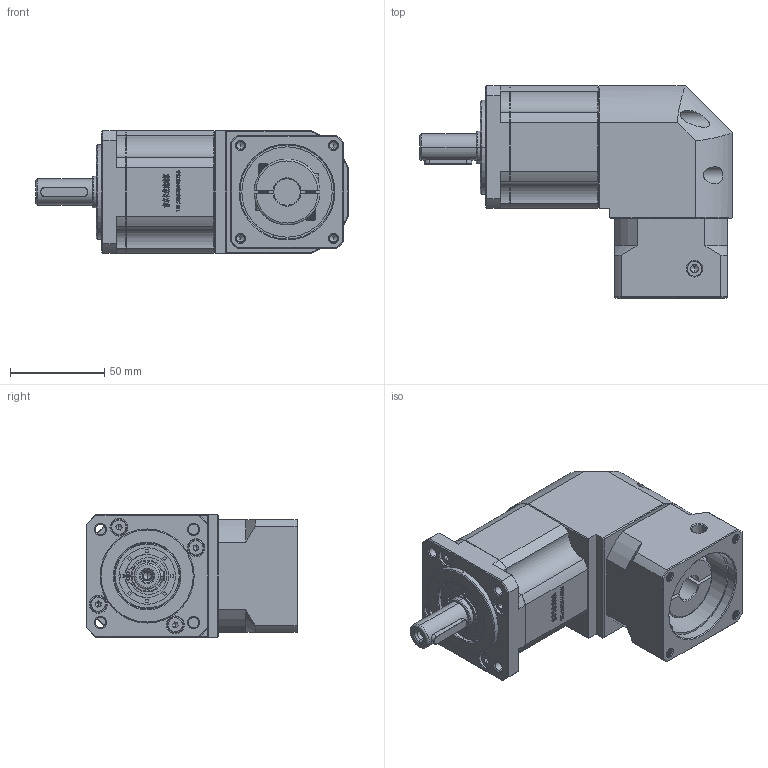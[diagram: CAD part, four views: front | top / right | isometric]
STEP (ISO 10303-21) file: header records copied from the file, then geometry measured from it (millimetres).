
FILE_DESCRIPTION (( 'STEP AP214' ), '1' );
FILE_NAME ('ZBR60-D14-L2-14-50-70-M5.STEP', '2022-04-19T08:57:06', ( '' ), ( 'Microsoft' ), 'SwSTEP 2.0', 'SolidWorks 2016', '' );
FILE_SCHEMA (( 'AUTOMOTIVE_DESIGN' ));
Length unit declared in the file: millimetre
Products named in the file (1): ZBR60-D14-L2-14-50-70-M5
Bounding box: 166 x 112.7 x 65 mm (x, y, z)
Volume: 585746.3 mm3; surface area: 81737.5 mm2
Topology: 5 solids, 5 shells, 2843 faces, 7685 edges, 4978 vertices
Faces by surface type: plane 1472, bspline 591, cylinder 432, cone 326, torus 22
Entity records: 155269 total; most frequent: CARTESIAN_POINT 56959, ORIENTED_EDGE 15310, DIRECTION 11621, EDGE_CURVE 7655, LINE 5057, VECTOR 5057, VERTEX_POINT 4978, AXIS2_PLACEMENT_3D 3282
